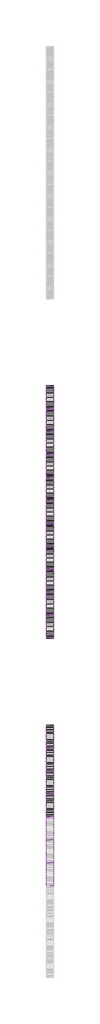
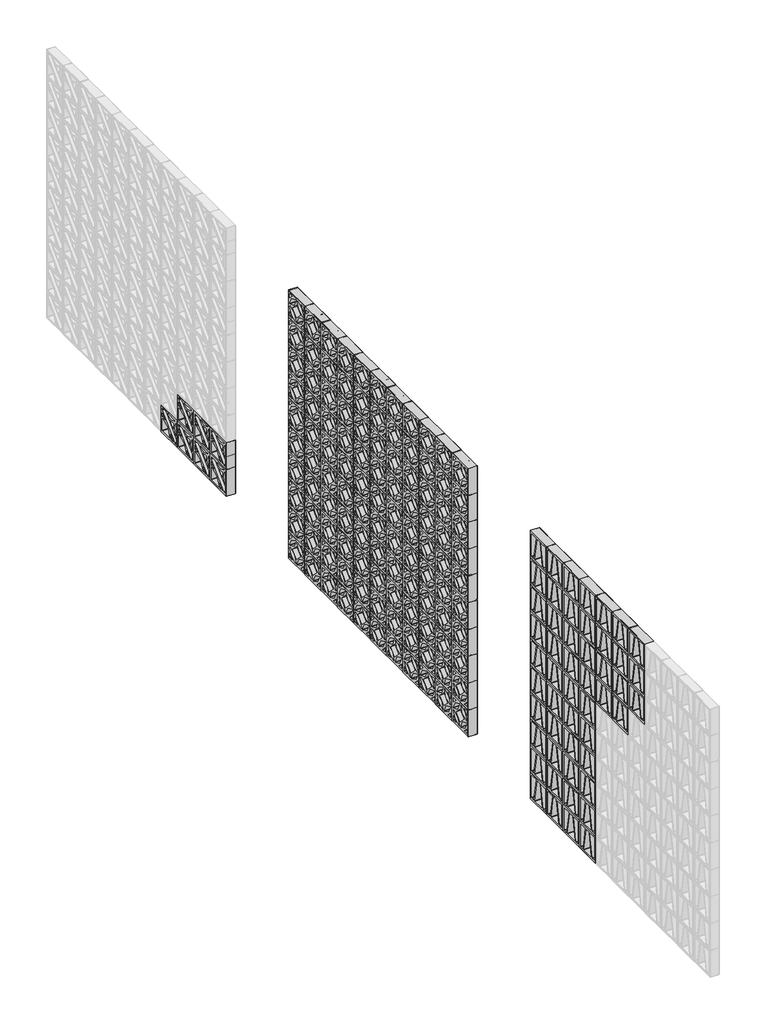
# One storey, part 2 of 8: 168 plates.
"""IFC4 building model written with IfcOpenShell, lengths in millimetres."""

from ifc_helpers import new_model, si_unit, origin, place, context, project, spatial, transform, mapped, element, save
from components import plate_dd80494e, plate_f0cbffd6, plate_92f93356

model = new_model("IFC4")

# Units and contexts
model_context = context("Model", 3, world=origin())
ifc_project = project(units=[si_unit("LENGTHUNIT", "METRE", prefix="MILLI")], contexts=[model_context])

# Site, building, storey
site = spatial("IfcSite", under=ifc_project)
building = spatial("IfcBuilding", under=site)
storey = spatial("IfcBuildingStorey", under=building, Name="PORTOBELLO - SHOWROOM", Elevation=0.0)

# Plates
placement = place(None, origin())
plate_shape = plate_dd80494e(model_context)
element("IfcPlate", 1, ObjectType="PORTOBELLO - STUDIO CRAFT 3 26X26 (PAINEL CORTINA) : STUDIO CRAFT 3", at=placement, inside=storey, context=model_context, shape_type="MappedRepresentation", body=[
    mapped(plate_shape, transform((227956.3824585, -3945.1299839, 0.0), x_axis=(0.0, 1.0, 0.0), y_axis=(-1.0, 0.0, 0.0), z_axis=(0.0, 0.0, 1.0))),
])
element("IfcPlate", 2, ObjectType="PORTOBELLO - STUDIO CRAFT 3 26X26 (PAINEL CORTINA) : STUDIO CRAFT 3", at=placement, inside=storey, context=model_context, shape_type="MappedRepresentation", body=[
    mapped(plate_shape, transform((227956.3824585, -3681.1299839, 0.0), x_axis=(0.0, 1.0, 0.0), y_axis=(-1.0, 0.0, 0.0), z_axis=(0.0, 0.0, 1.0))),
])
element("IfcPlate", 3, ObjectType="PORTOBELLO - STUDIO CRAFT 3 26X26 (PAINEL CORTINA) : STUDIO CRAFT 3", at=placement, inside=storey, context=model_context, shape_type="MappedRepresentation", body=[
    mapped(plate_shape, transform((227956.3824585, -3417.1299839, 0.0), x_axis=(0.0, 1.0, 0.0), y_axis=(-1.0, 0.0, 0.0), z_axis=(0.0, 0.0, 1.0))),
])
element("IfcPlate", 4, ObjectType="PORTOBELLO - STUDIO CRAFT 3 26X26 (PAINEL CORTINA) : STUDIO CRAFT 3", at=placement, inside=storey, context=model_context, shape_type="MappedRepresentation", body=[
    mapped(plate_shape, transform((227956.3824585, -3153.1299839, 0.0), x_axis=(0.0, 1.0, 0.0), y_axis=(-1.0, 0.0, 0.0), z_axis=(0.0, 0.0, 1.0))),
])
element("IfcPlate", 5, ObjectType="PORTOBELLO - STUDIO CRAFT 3 26X26 (PAINEL CORTINA) : STUDIO CRAFT 3", at=placement, inside=storey, context=model_context, shape_type="MappedRepresentation", body=[
    mapped(plate_shape, transform((227956.3824585, -3945.1299839, 264.0), x_axis=(0.0, 1.0, 0.0), y_axis=(-1.0, 0.0, 0.0), z_axis=(0.0, 0.0, 1.0))),
])
element("IfcPlate", 6, ObjectType="PORTOBELLO - STUDIO CRAFT 3 26X26 (PAINEL CORTINA) : STUDIO CRAFT 3", at=placement, inside=storey, context=model_context, shape_type="MappedRepresentation", body=[
    mapped(plate_shape, transform((227956.3824585, -3681.1299839, 264.0), x_axis=(0.0, 1.0, 0.0), y_axis=(-1.0, 0.0, 0.0), z_axis=(0.0, 0.0, 1.0))),
])
element("IfcPlate", 7, ObjectType="PORTOBELLO - STUDIO CRAFT 3 26X26 (PAINEL CORTINA) : STUDIO CRAFT 3", at=placement, inside=storey, context=model_context, shape_type="MappedRepresentation", body=[
    mapped(plate_shape, transform((227956.3824585, -3417.1299839, 264.0), x_axis=(0.0, 1.0, 0.0), y_axis=(-1.0, 0.0, 0.0), z_axis=(0.0, 0.0, 1.0))),
])
element("IfcPlate", 8, ObjectType="PORTOBELLO - STUDIO CRAFT 3 26X26 (PAINEL CORTINA) : STUDIO CRAFT 3", at=placement, inside=storey, context=model_context, shape_type="MappedRepresentation", body=[
    mapped(plate_shape, transform((227956.3824585, -3153.1299839, 264.0), x_axis=(0.0, 1.0, 0.0), y_axis=(-1.0, 0.0, 0.0), z_axis=(0.0, 0.0, 1.0))),
])
element("IfcPlate", 9, ObjectType="PORTOBELLO - STUDIO CRAFT 3 26X26 (PAINEL CORTINA) : STUDIO CRAFT 3", at=placement, inside=storey, context=model_context, shape_type="MappedRepresentation", body=[
    mapped(plate_shape, transform((227956.3824585, -3945.1299839, 528.0), x_axis=(0.0, 1.0, 0.0), y_axis=(-1.0, 0.0, 0.0), z_axis=(0.0, 0.0, 1.0))),
])
element("IfcPlate", 10, ObjectType="PORTOBELLO - STUDIO CRAFT 3 26X26 (PAINEL CORTINA) : STUDIO CRAFT 3", at=placement, inside=storey, context=model_context, shape_type="MappedRepresentation", body=[
    mapped(plate_shape, transform((227956.3824585, -3681.1299839, 528.0), x_axis=(0.0, 1.0, 0.0), y_axis=(-1.0, 0.0, 0.0), z_axis=(0.0, 0.0, 1.0))),
])
element("IfcPlate", 11, ObjectType="PORTOBELLO - STUDIO CRAFT 3 26X26 (PAINEL CORTINA) : STUDIO CRAFT 3", at=placement, inside=storey, context=model_context, shape_type="MappedRepresentation", body=[
    mapped(plate_shape, transform((227956.3824585, -3417.1299839, 528.0), x_axis=(0.0, 1.0, 0.0), y_axis=(-1.0, 0.0, 0.0), z_axis=(0.0, 0.0, 1.0))),
])
element("IfcPlate", 12, ObjectType="PORTOBELLO - STUDIO CRAFT 3 26X26 (PAINEL CORTINA) : STUDIO CRAFT 3", at=placement, inside=storey, context=model_context, shape_type="MappedRepresentation", body=[
    mapped(plate_shape, transform((227956.3824585, -3153.1299839, 528.0), x_axis=(0.0, 1.0, 0.0), y_axis=(-1.0, 0.0, 0.0), z_axis=(0.0, 0.0, 1.0))),
])
element("IfcPlate", 13, ObjectType="PORTOBELLO - STUDIO CRAFT 3 26X26 (PAINEL CORTINA) : STUDIO CRAFT 3", at=placement, inside=storey, context=model_context, shape_type="MappedRepresentation", body=[
    mapped(plate_shape, transform((227956.3824585, -3945.1299839, 792.0), x_axis=(0.0, 1.0, 0.0), y_axis=(-1.0, 0.0, 0.0), z_axis=(0.0, 0.0, 1.0))),
])
element("IfcPlate", 14, ObjectType="PORTOBELLO - STUDIO CRAFT 3 26X26 (PAINEL CORTINA) : STUDIO CRAFT 3", at=placement, inside=storey, context=model_context, shape_type="MappedRepresentation", body=[
    mapped(plate_shape, transform((227956.3824585, -3681.1299839, 792.0), x_axis=(0.0, 1.0, 0.0), y_axis=(-1.0, 0.0, 0.0), z_axis=(0.0, 0.0, 1.0))),
])
element("IfcPlate", 15, ObjectType="PORTOBELLO - STUDIO CRAFT 3 26X26 (PAINEL CORTINA) : STUDIO CRAFT 3", at=placement, inside=storey, context=model_context, shape_type="MappedRepresentation", body=[
    mapped(plate_shape, transform((227956.3824585, -3417.1299839, 792.0), x_axis=(0.0, 1.0, 0.0), y_axis=(-1.0, 0.0, 0.0), z_axis=(0.0, 0.0, 1.0))),
])
element("IfcPlate", 16, ObjectType="PORTOBELLO - STUDIO CRAFT 3 26X26 (PAINEL CORTINA) : STUDIO CRAFT 3", at=placement, inside=storey, context=model_context, shape_type="MappedRepresentation", body=[
    mapped(plate_shape, transform((227956.3824585, -3153.1299839, 792.0), x_axis=(0.0, 1.0, 0.0), y_axis=(-1.0, 0.0, 0.0), z_axis=(0.0, 0.0, 1.0))),
])
element("IfcPlate", 17, ObjectType="PORTOBELLO - STUDIO CRAFT 3 26X26 (PAINEL CORTINA) : STUDIO CRAFT 3", at=placement, inside=storey, context=model_context, shape_type="MappedRepresentation", body=[
    mapped(plate_shape, transform((227956.3824585, -3945.1299839, 1056.0), x_axis=(0.0, 1.0, 0.0), y_axis=(-1.0, 0.0, 0.0), z_axis=(0.0, 0.0, 1.0))),
])
element("IfcPlate", 18, ObjectType="PORTOBELLO - STUDIO CRAFT 3 26X26 (PAINEL CORTINA) : STUDIO CRAFT 3", at=placement, inside=storey, context=model_context, shape_type="MappedRepresentation", body=[
    mapped(plate_shape, transform((227956.3824585, -3681.1299839, 1056.0), x_axis=(0.0, 1.0, 0.0), y_axis=(-1.0, 0.0, 0.0), z_axis=(0.0, 0.0, 1.0))),
])
element("IfcPlate", 19, ObjectType="PORTOBELLO - STUDIO CRAFT 3 26X26 (PAINEL CORTINA) : STUDIO CRAFT 3", at=placement, inside=storey, context=model_context, shape_type="MappedRepresentation", body=[
    mapped(plate_shape, transform((227956.3824585, -3417.1299839, 1056.0), x_axis=(0.0, 1.0, 0.0), y_axis=(-1.0, 0.0, 0.0), z_axis=(0.0, 0.0, 1.0))),
])
element("IfcPlate", 20, ObjectType="PORTOBELLO - STUDIO CRAFT 3 26X26 (PAINEL CORTINA) : STUDIO CRAFT 3", at=placement, inside=storey, context=model_context, shape_type="MappedRepresentation", body=[
    mapped(plate_shape, transform((227956.3824585, -3153.1299839, 1056.0), x_axis=(0.0, 1.0, 0.0), y_axis=(-1.0, 0.0, 0.0), z_axis=(0.0, 0.0, 1.0))),
])
element("IfcPlate", 21, ObjectType="PORTOBELLO - STUDIO CRAFT 3 26X26 (PAINEL CORTINA) : STUDIO CRAFT 3", at=placement, inside=storey, context=model_context, shape_type="MappedRepresentation", body=[
    mapped(plate_shape, transform((227956.3824585, -3945.1299839, 1320.0), x_axis=(0.0, 1.0, 0.0), y_axis=(-1.0, 0.0, 0.0), z_axis=(0.0, 0.0, 1.0))),
])
element("IfcPlate", 22, ObjectType="PORTOBELLO - STUDIO CRAFT 3 26X26 (PAINEL CORTINA) : STUDIO CRAFT 3", at=placement, inside=storey, context=model_context, shape_type="MappedRepresentation", body=[
    mapped(plate_shape, transform((227956.3824585, -3681.1299839, 1320.0), x_axis=(0.0, 1.0, 0.0), y_axis=(-1.0, 0.0, 0.0), z_axis=(0.0, 0.0, 1.0))),
])
element("IfcPlate", 23, ObjectType="PORTOBELLO - STUDIO CRAFT 3 26X26 (PAINEL CORTINA) : STUDIO CRAFT 3", at=placement, inside=storey, context=model_context, shape_type="MappedRepresentation", body=[
    mapped(plate_shape, transform((227956.3824585, -3417.1299839, 1320.0), x_axis=(0.0, 1.0, 0.0), y_axis=(-1.0, 0.0, 0.0), z_axis=(0.0, 0.0, 1.0))),
])
element("IfcPlate", 24, ObjectType="PORTOBELLO - STUDIO CRAFT 3 26X26 (PAINEL CORTINA) : STUDIO CRAFT 3", at=placement, inside=storey, context=model_context, shape_type="MappedRepresentation", body=[
    mapped(plate_shape, transform((227956.3824585, -3153.1299839, 1320.0), x_axis=(0.0, 1.0, 0.0), y_axis=(-1.0, 0.0, 0.0), z_axis=(0.0, 0.0, 1.0))),
])
element("IfcPlate", 25, ObjectType="PORTOBELLO - STUDIO CRAFT 3 26X26 (PAINEL CORTINA) : STUDIO CRAFT 3", at=placement, inside=storey, context=model_context, shape_type="MappedRepresentation", body=[
    mapped(plate_shape, transform((227956.3824585, -4473.1299839, 1584.0), x_axis=(0.0, 1.0, 0.0), y_axis=(-1.0, 0.0, 0.0), z_axis=(0.0, 0.0, 1.0))),
])
element("IfcPlate", 26, ObjectType="PORTOBELLO - STUDIO CRAFT 3 26X26 (PAINEL CORTINA) : STUDIO CRAFT 3", at=placement, inside=storey, context=model_context, shape_type="MappedRepresentation", body=[
    mapped(plate_shape, transform((227956.3824585, -4209.1299839, 1584.0), x_axis=(0.0, 1.0, 0.0), y_axis=(-1.0, 0.0, 0.0), z_axis=(0.0, 0.0, 1.0))),
])
element("IfcPlate", 27, ObjectType="PORTOBELLO - STUDIO CRAFT 3 26X26 (PAINEL CORTINA) : STUDIO CRAFT 3", at=placement, inside=storey, context=model_context, shape_type="MappedRepresentation", body=[
    mapped(plate_shape, transform((227956.3824585, -3945.1299839, 1584.0), x_axis=(0.0, 1.0, 0.0), y_axis=(-1.0, 0.0, 0.0), z_axis=(0.0, 0.0, 1.0))),
])
element("IfcPlate", 28, ObjectType="PORTOBELLO - STUDIO CRAFT 3 26X26 (PAINEL CORTINA) : STUDIO CRAFT 3", at=placement, inside=storey, context=model_context, shape_type="MappedRepresentation", body=[
    mapped(plate_shape, transform((227956.3824585, -3681.1299839, 1584.0), x_axis=(0.0, 1.0, 0.0), y_axis=(-1.0, 0.0, 0.0), z_axis=(0.0, 0.0, 1.0))),
])
element("IfcPlate", 29, ObjectType="PORTOBELLO - STUDIO CRAFT 3 26X26 (PAINEL CORTINA) : STUDIO CRAFT 3", at=placement, inside=storey, context=model_context, shape_type="MappedRepresentation", body=[
    mapped(plate_shape, transform((227956.3824585, -3417.1299839, 1584.0), x_axis=(0.0, 1.0, 0.0), y_axis=(-1.0, 0.0, 0.0), z_axis=(0.0, 0.0, 1.0))),
])
element("IfcPlate", 30, ObjectType="PORTOBELLO - STUDIO CRAFT 3 26X26 (PAINEL CORTINA) : STUDIO CRAFT 3", at=placement, inside=storey, context=model_context, shape_type="MappedRepresentation", body=[
    mapped(plate_shape, transform((227956.3824585, -3153.1299839, 1584.0), x_axis=(0.0, 1.0, 0.0), y_axis=(-1.0, 0.0, 0.0), z_axis=(0.0, 0.0, 1.0))),
])
element("IfcPlate", 31, ObjectType="PORTOBELLO - STUDIO CRAFT 3 26X26 (PAINEL CORTINA) : STUDIO CRAFT 3", at=placement, inside=storey, context=model_context, shape_type="MappedRepresentation", body=[
    mapped(plate_shape, transform((227956.3824585, -4737.1299839, 1848.0), x_axis=(0.0, 1.0, 0.0), y_axis=(-1.0, 0.0, 0.0), z_axis=(0.0, 0.0, 1.0))),
])
element("IfcPlate", 32, ObjectType="PORTOBELLO - STUDIO CRAFT 3 26X26 (PAINEL CORTINA) : STUDIO CRAFT 3", at=placement, inside=storey, context=model_context, shape_type="MappedRepresentation", body=[
    mapped(plate_shape, transform((227956.3824585, -4473.1299839, 1848.0), x_axis=(0.0, 1.0, 0.0), y_axis=(-1.0, 0.0, 0.0), z_axis=(0.0, 0.0, 1.0))),
])
element("IfcPlate", 33, ObjectType="PORTOBELLO - STUDIO CRAFT 3 26X26 (PAINEL CORTINA) : STUDIO CRAFT 3", at=placement, inside=storey, context=model_context, shape_type="MappedRepresentation", body=[
    mapped(plate_shape, transform((227956.3824585, -4209.1299839, 1848.0), x_axis=(0.0, 1.0, 0.0), y_axis=(-1.0, 0.0, 0.0), z_axis=(0.0, 0.0, 1.0))),
])
element("IfcPlate", 34, ObjectType="PORTOBELLO - STUDIO CRAFT 3 26X26 (PAINEL CORTINA) : STUDIO CRAFT 3", at=placement, inside=storey, context=model_context, shape_type="MappedRepresentation", body=[
    mapped(plate_shape, transform((227956.3824585, -3945.1299839, 1848.0), x_axis=(0.0, 1.0, 0.0), y_axis=(-1.0, 0.0, 0.0), z_axis=(0.0, 0.0, 1.0))),
])
element("IfcPlate", 35, ObjectType="PORTOBELLO - STUDIO CRAFT 3 26X26 (PAINEL CORTINA) : STUDIO CRAFT 3", at=placement, inside=storey, context=model_context, shape_type="MappedRepresentation", body=[
    mapped(plate_shape, transform((227956.3824585, -3681.1299839, 1848.0), x_axis=(0.0, 1.0, 0.0), y_axis=(-1.0, 0.0, 0.0), z_axis=(0.0, 0.0, 1.0))),
])
element("IfcPlate", 36, ObjectType="PORTOBELLO - STUDIO CRAFT 3 26X26 (PAINEL CORTINA) : STUDIO CRAFT 3", at=placement, inside=storey, context=model_context, shape_type="MappedRepresentation", body=[
    mapped(plate_shape, transform((227956.3824585, -3417.1299839, 1848.0), x_axis=(0.0, 1.0, 0.0), y_axis=(-1.0, 0.0, 0.0), z_axis=(0.0, 0.0, 1.0))),
])
element("IfcPlate", 37, ObjectType="PORTOBELLO - STUDIO CRAFT 3 26X26 (PAINEL CORTINA) : STUDIO CRAFT 3", at=placement, inside=storey, context=model_context, shape_type="MappedRepresentation", body=[
    mapped(plate_shape, transform((227956.3824585, -3153.1299839, 1848.0), x_axis=(0.0, 1.0, 0.0), y_axis=(-1.0, 0.0, 0.0), z_axis=(0.0, 0.0, 1.0))),
])
element("IfcPlate", 38, ObjectType="PORTOBELLO - STUDIO CRAFT 3 26X26 (PAINEL CORTINA) : STUDIO CRAFT 3", at=placement, inside=storey, context=model_context, shape_type="MappedRepresentation", body=[
    mapped(plate_shape, transform((227956.3824585, -4737.1299839, 2112.0), x_axis=(0.0, 1.0, 0.0), y_axis=(-1.0, 0.0, 0.0), z_axis=(0.0, 0.0, 1.0))),
])
element("IfcPlate", 39, ObjectType="PORTOBELLO - STUDIO CRAFT 3 26X26 (PAINEL CORTINA) : STUDIO CRAFT 3", at=placement, inside=storey, context=model_context, shape_type="MappedRepresentation", body=[
    mapped(plate_shape, transform((227956.3824585, -4473.1299839, 2112.0), x_axis=(0.0, 1.0, 0.0), y_axis=(-1.0, 0.0, 0.0), z_axis=(0.0, 0.0, 1.0))),
])
element("IfcPlate", 40, ObjectType="PORTOBELLO - STUDIO CRAFT 3 26X26 (PAINEL CORTINA) : STUDIO CRAFT 3", at=placement, inside=storey, context=model_context, shape_type="MappedRepresentation", body=[
    mapped(plate_shape, transform((227956.3824585, -4209.1299839, 2112.0), x_axis=(0.0, 1.0, 0.0), y_axis=(-1.0, 0.0, 0.0), z_axis=(0.0, 0.0, 1.0))),
])
element("IfcPlate", 41, ObjectType="PORTOBELLO - STUDIO CRAFT 3 26X26 (PAINEL CORTINA) : STUDIO CRAFT 3", at=placement, inside=storey, context=model_context, shape_type="MappedRepresentation", body=[
    mapped(plate_shape, transform((227956.3824585, -3945.1299839, 2112.0), x_axis=(0.0, 1.0, 0.0), y_axis=(-1.0, 0.0, 0.0), z_axis=(0.0, 0.0, 1.0))),
])
element("IfcPlate", 42, ObjectType="PORTOBELLO - STUDIO CRAFT 3 26X26 (PAINEL CORTINA) : STUDIO CRAFT 3", at=placement, inside=storey, context=model_context, shape_type="MappedRepresentation", body=[
    mapped(plate_shape, transform((227956.3824585, -3681.1299839, 2112.0), x_axis=(0.0, 1.0, 0.0), y_axis=(-1.0, 0.0, 0.0), z_axis=(0.0, 0.0, 1.0))),
])
element("IfcPlate", 43, ObjectType="PORTOBELLO - STUDIO CRAFT 3 26X26 (PAINEL CORTINA) : STUDIO CRAFT 3", at=placement, inside=storey, context=model_context, shape_type="MappedRepresentation", body=[
    mapped(plate_shape, transform((227956.3824585, -3417.1299839, 2112.0), x_axis=(0.0, 1.0, 0.0), y_axis=(-1.0, 0.0, 0.0), z_axis=(0.0, 0.0, 1.0))),
])
element("IfcPlate", 44, ObjectType="PORTOBELLO - STUDIO CRAFT 3 26X26 (PAINEL CORTINA) : STUDIO CRAFT 3", at=placement, inside=storey, context=model_context, shape_type="MappedRepresentation", body=[
    mapped(plate_shape, transform((227956.3824585, -3153.1299839, 2112.0), x_axis=(0.0, 1.0, 0.0), y_axis=(-1.0, 0.0, 0.0), z_axis=(0.0, 0.0, 1.0))),
])
element("IfcPlate", 45, ObjectType="PORTOBELLO - STUDIO CRAFT 3 26X26 (PAINEL CORTINA) : STUDIO CRAFT 3", at=placement, inside=storey, context=model_context, shape_type="MappedRepresentation", body=[
    mapped(plate_shape, transform((227956.3824585, -4737.1299839, 2376.0), x_axis=(0.0, 1.0, 0.0), y_axis=(-1.0, 0.0, 0.0), z_axis=(0.0, 0.0, 1.0))),
])
element("IfcPlate", 46, ObjectType="PORTOBELLO - STUDIO CRAFT 3 26X26 (PAINEL CORTINA) : STUDIO CRAFT 3", at=placement, inside=storey, context=model_context, shape_type="MappedRepresentation", body=[
    mapped(plate_shape, transform((227956.3824585, -4473.1299839, 2376.0), x_axis=(0.0, 1.0, 0.0), y_axis=(-1.0, 0.0, 0.0), z_axis=(0.0, 0.0, 1.0))),
])
element("IfcPlate", 47, ObjectType="PORTOBELLO - STUDIO CRAFT 3 26X26 (PAINEL CORTINA) : STUDIO CRAFT 3", at=placement, inside=storey, context=model_context, shape_type="MappedRepresentation", body=[
    mapped(plate_shape, transform((227956.3824585, -4209.1299839, 2376.0), x_axis=(0.0, 1.0, 0.0), y_axis=(-1.0, 0.0, 0.0), z_axis=(0.0, 0.0, 1.0))),
])
element("IfcPlate", 48, ObjectType="PORTOBELLO - STUDIO CRAFT 3 26X26 (PAINEL CORTINA) : STUDIO CRAFT 3", at=placement, inside=storey, context=model_context, shape_type="MappedRepresentation", body=[
    mapped(plate_shape, transform((227956.3824585, -3945.1299839, 2376.0), x_axis=(0.0, 1.0, 0.0), y_axis=(-1.0, 0.0, 0.0), z_axis=(0.0, 0.0, 1.0))),
])
element("IfcPlate", 49, ObjectType="PORTOBELLO - STUDIO CRAFT 3 26X26 (PAINEL CORTINA) : STUDIO CRAFT 3", at=placement, inside=storey, context=model_context, shape_type="MappedRepresentation", body=[
    mapped(plate_shape, transform((227956.3824585, -3681.1299839, 2376.0), x_axis=(0.0, 1.0, 0.0), y_axis=(-1.0, 0.0, 0.0), z_axis=(0.0, 0.0, 1.0))),
])
element("IfcPlate", 50, ObjectType="PORTOBELLO - STUDIO CRAFT 3 26X26 (PAINEL CORTINA) : STUDIO CRAFT 3", at=placement, inside=storey, context=model_context, shape_type="MappedRepresentation", body=[
    mapped(plate_shape, transform((227956.3824585, -3417.1299839, 2376.0), x_axis=(0.0, 1.0, 0.0), y_axis=(-1.0, 0.0, 0.0), z_axis=(0.0, 0.0, 1.0))),
])
element("IfcPlate", 51, ObjectType="PORTOBELLO - STUDIO CRAFT 3 26X26 (PAINEL CORTINA) : STUDIO CRAFT 3", at=placement, inside=storey, context=model_context, shape_type="MappedRepresentation", body=[
    mapped(plate_shape, transform((227956.3824585, -3153.1299839, 2376.0), x_axis=(0.0, 1.0, 0.0), y_axis=(-1.0, 0.0, 0.0), z_axis=(0.0, 0.0, 1.0))),
])
plate_2_shape = plate_f0cbffd6(model_context)
element("IfcPlate", 52, ObjectType="PORTOBELLO - STUDIO CRAFT 4 26X26 (PAINEL CORTINA) : STUDIO CRAFT 4", at=placement, inside=storey, context=model_context, shape_type="MappedRepresentation", body=[
    mapped(plate_2_shape, transform((227956.3824585, -1889.1299839, 0.0), x_axis=(0.0, 1.0, 0.0), y_axis=(-1.0, 0.0, 0.0), z_axis=(0.0, 0.0, 1.0))),
])
element("IfcPlate", 53, ObjectType="PORTOBELLO - STUDIO CRAFT 4 26X26 (PAINEL CORTINA) : STUDIO CRAFT 4", at=placement, inside=storey, context=model_context, shape_type="MappedRepresentation", body=[
    mapped(plate_2_shape, transform((227956.3824585, -1625.1299837, 0.0), x_axis=(0.0, 1.0, 0.0), y_axis=(-1.0, 0.0, 0.0), z_axis=(0.0, 0.0, 1.0))),
])
element("IfcPlate", 54, ObjectType="PORTOBELLO - STUDIO CRAFT 4 26X26 (PAINEL CORTINA) : STUDIO CRAFT 4", at=placement, inside=storey, context=model_context, shape_type="MappedRepresentation", body=[
    mapped(plate_2_shape, transform((227956.3824585, -1361.1299837, 0.0), x_axis=(0.0, 1.0, 0.0), y_axis=(-1.0, 0.0, 0.0), z_axis=(0.0, 0.0, 1.0))),
])
element("IfcPlate", 55, ObjectType="PORTOBELLO - STUDIO CRAFT 4 26X26 (PAINEL CORTINA) : STUDIO CRAFT 4", at=placement, inside=storey, context=model_context, shape_type="MappedRepresentation", body=[
    mapped(plate_2_shape, transform((227956.3824585, -1097.1299837, 0.0), x_axis=(0.0, 1.0, 0.0), y_axis=(-1.0, 0.0, 0.0), z_axis=(0.0, 0.0, 1.0))),
])
element("IfcPlate", 56, ObjectType="PORTOBELLO - STUDIO CRAFT 4 26X26 (PAINEL CORTINA) : STUDIO CRAFT 4", at=placement, inside=storey, context=model_context, shape_type="MappedRepresentation", body=[
    mapped(plate_2_shape, transform((227956.3824585, -833.1299837, 0.0), x_axis=(0.0, 1.0, 0.0), y_axis=(-1.0, 0.0, 0.0), z_axis=(0.0, 0.0, 1.0))),
])
element("IfcPlate", 57, ObjectType="PORTOBELLO - STUDIO CRAFT 4 26X26 (PAINEL CORTINA) : STUDIO CRAFT 4", at=placement, inside=storey, context=model_context, shape_type="MappedRepresentation", body=[
    mapped(plate_2_shape, transform((227956.3824585, -569.1299837, 0.0), x_axis=(0.0, 1.0, 0.0), y_axis=(-1.0, 0.0, 0.0), z_axis=(0.0, 0.0, 1.0))),
])
element("IfcPlate", 58, ObjectType="PORTOBELLO - STUDIO CRAFT 4 26X26 (PAINEL CORTINA) : STUDIO CRAFT 4", at=placement, inside=storey, context=model_context, shape_type="MappedRepresentation", body=[
    mapped(plate_2_shape, transform((227956.3824585, -305.1299837, 0.0), x_axis=(0.0, 1.0, 0.0), y_axis=(-1.0, 0.0, 0.0), z_axis=(0.0, 0.0, 1.0))),
])
element("IfcPlate", 59, ObjectType="PORTOBELLO - STUDIO CRAFT 4 26X26 (PAINEL CORTINA) : STUDIO CRAFT 4", at=placement, inside=storey, context=model_context, shape_type="MappedRepresentation", body=[
    mapped(plate_2_shape, transform((227956.3824585, -41.1299837, 0.0), x_axis=(0.0, 1.0, 0.0), y_axis=(-1.0, 0.0, 0.0), z_axis=(0.0, 0.0, 1.0))),
])
element("IfcPlate", 60, ObjectType="PORTOBELLO - STUDIO CRAFT 4 26X26 (PAINEL CORTINA) : STUDIO CRAFT 4", at=placement, inside=storey, context=model_context, shape_type="MappedRepresentation", body=[
    mapped(plate_2_shape, transform((227956.3824585, 222.8700163, 0.0), x_axis=(0.0, 1.0, 0.0), y_axis=(-1.0, 0.0, 0.0), z_axis=(0.0, 0.0, 1.0))),
])
element("IfcPlate", 61, ObjectType="PORTOBELLO - STUDIO CRAFT 4 26X26 (PAINEL CORTINA) : STUDIO CRAFT 4", at=placement, inside=storey, context=model_context, shape_type="MappedRepresentation", body=[
    mapped(plate_2_shape, transform((227956.3824585, 486.8700163, 0.0), x_axis=(0.0, 1.0, 0.0), y_axis=(-1.0, 0.0, 0.0), z_axis=(0.0, 0.0, 1.0))),
])
element("IfcPlate", 62, ObjectType="PORTOBELLO - STUDIO CRAFT 4 26X26 (PAINEL CORTINA) : STUDIO CRAFT 4", at=placement, inside=storey, context=model_context, shape_type="MappedRepresentation", body=[
    mapped(plate_2_shape, transform((227956.3824585, 750.8700162, 0.0), x_axis=(0.0, 1.0, 0.0), y_axis=(-1.0, 0.0, 0.0), z_axis=(0.0, 0.0, 1.0))),
])
element("IfcPlate", 63, ObjectType="PORTOBELLO - STUDIO CRAFT 4 26X26 (PAINEL CORTINA) : STUDIO CRAFT 4", at=placement, inside=storey, context=model_context, shape_type="MappedRepresentation", body=[
    mapped(plate_2_shape, transform((227956.3824585, -1889.1299839, 264.0), x_axis=(0.0, 1.0, 0.0), y_axis=(-1.0, 0.0, 0.0), z_axis=(0.0, 0.0, 1.0))),
])
element("IfcPlate", 64, ObjectType="PORTOBELLO - STUDIO CRAFT 4 26X26 (PAINEL CORTINA) : STUDIO CRAFT 4", at=placement, inside=storey, context=model_context, shape_type="MappedRepresentation", body=[
    mapped(plate_2_shape, transform((227956.3824585, -1625.1299837, 264.0), x_axis=(0.0, 1.0, 0.0), y_axis=(-1.0, 0.0, 0.0), z_axis=(0.0, 0.0, 1.0))),
])
element("IfcPlate", 65, ObjectType="PORTOBELLO - STUDIO CRAFT 4 26X26 (PAINEL CORTINA) : STUDIO CRAFT 4", at=placement, inside=storey, context=model_context, shape_type="MappedRepresentation", body=[
    mapped(plate_2_shape, transform((227956.3824585, -1361.1299837, 264.0), x_axis=(0.0, 1.0, 0.0), y_axis=(-1.0, 0.0, 0.0), z_axis=(0.0, 0.0, 1.0))),
])
element("IfcPlate", 66, ObjectType="PORTOBELLO - STUDIO CRAFT 4 26X26 (PAINEL CORTINA) : STUDIO CRAFT 4", at=placement, inside=storey, context=model_context, shape_type="MappedRepresentation", body=[
    mapped(plate_2_shape, transform((227956.3824585, -1097.1299837, 264.0), x_axis=(0.0, 1.0, 0.0), y_axis=(-1.0, 0.0, 0.0), z_axis=(0.0, 0.0, 1.0))),
])
element("IfcPlate", 67, ObjectType="PORTOBELLO - STUDIO CRAFT 4 26X26 (PAINEL CORTINA) : STUDIO CRAFT 4", at=placement, inside=storey, context=model_context, shape_type="MappedRepresentation", body=[
    mapped(plate_2_shape, transform((227956.3824585, -833.1299837, 264.0), x_axis=(0.0, 1.0, 0.0), y_axis=(-1.0, 0.0, 0.0), z_axis=(0.0, 0.0, 1.0))),
])
element("IfcPlate", 68, ObjectType="PORTOBELLO - STUDIO CRAFT 4 26X26 (PAINEL CORTINA) : STUDIO CRAFT 4", at=placement, inside=storey, context=model_context, shape_type="MappedRepresentation", body=[
    mapped(plate_2_shape, transform((227956.3824585, -569.1299837, 264.0), x_axis=(0.0, 1.0, 0.0), y_axis=(-1.0, 0.0, 0.0), z_axis=(0.0, 0.0, 1.0))),
])
element("IfcPlate", 69, ObjectType="PORTOBELLO - STUDIO CRAFT 4 26X26 (PAINEL CORTINA) : STUDIO CRAFT 4", at=placement, inside=storey, context=model_context, shape_type="MappedRepresentation", body=[
    mapped(plate_2_shape, transform((227956.3824585, -305.1299837, 264.0), x_axis=(0.0, 1.0, 0.0), y_axis=(-1.0, 0.0, 0.0), z_axis=(0.0, 0.0, 1.0))),
])
element("IfcPlate", 70, ObjectType="PORTOBELLO - STUDIO CRAFT 4 26X26 (PAINEL CORTINA) : STUDIO CRAFT 4", at=placement, inside=storey, context=model_context, shape_type="MappedRepresentation", body=[
    mapped(plate_2_shape, transform((227956.3824585, -41.1299837, 264.0), x_axis=(0.0, 1.0, 0.0), y_axis=(-1.0, 0.0, 0.0), z_axis=(0.0, 0.0, 1.0))),
])
element("IfcPlate", 71, ObjectType="PORTOBELLO - STUDIO CRAFT 4 26X26 (PAINEL CORTINA) : STUDIO CRAFT 4", at=placement, inside=storey, context=model_context, shape_type="MappedRepresentation", body=[
    mapped(plate_2_shape, transform((227956.3824585, 222.8700163, 264.0), x_axis=(0.0, 1.0, 0.0), y_axis=(-1.0, 0.0, 0.0), z_axis=(0.0, 0.0, 1.0))),
])
element("IfcPlate", 72, ObjectType="PORTOBELLO - STUDIO CRAFT 4 26X26 (PAINEL CORTINA) : STUDIO CRAFT 4", at=placement, inside=storey, context=model_context, shape_type="MappedRepresentation", body=[
    mapped(plate_2_shape, transform((227956.3824585, 486.8700163, 264.0), x_axis=(0.0, 1.0, 0.0), y_axis=(-1.0, 0.0, 0.0), z_axis=(0.0, 0.0, 1.0))),
])
element("IfcPlate", 73, ObjectType="PORTOBELLO - STUDIO CRAFT 4 26X26 (PAINEL CORTINA) : STUDIO CRAFT 4", at=placement, inside=storey, context=model_context, shape_type="MappedRepresentation", body=[
    mapped(plate_2_shape, transform((227956.3824585, 750.8700162, 264.0), x_axis=(0.0, 1.0, 0.0), y_axis=(-1.0, 0.0, 0.0), z_axis=(0.0, 0.0, 1.0))),
])
element("IfcPlate", 74, ObjectType="PORTOBELLO - STUDIO CRAFT 4 26X26 (PAINEL CORTINA) : STUDIO CRAFT 4", at=placement, inside=storey, context=model_context, shape_type="MappedRepresentation", body=[
    mapped(plate_2_shape, transform((227956.3824585, -1889.1299839, 528.0), x_axis=(0.0, 1.0, 0.0), y_axis=(-1.0, 0.0, 0.0), z_axis=(0.0, 0.0, 1.0))),
])
element("IfcPlate", 75, ObjectType="PORTOBELLO - STUDIO CRAFT 4 26X26 (PAINEL CORTINA) : STUDIO CRAFT 4", at=placement, inside=storey, context=model_context, shape_type="MappedRepresentation", body=[
    mapped(plate_2_shape, transform((227956.3824585, -1625.1299837, 528.0), x_axis=(0.0, 1.0, 0.0), y_axis=(-1.0, 0.0, 0.0), z_axis=(0.0, 0.0, 1.0))),
])
element("IfcPlate", 76, ObjectType="PORTOBELLO - STUDIO CRAFT 4 26X26 (PAINEL CORTINA) : STUDIO CRAFT 4", at=placement, inside=storey, context=model_context, shape_type="MappedRepresentation", body=[
    mapped(plate_2_shape, transform((227956.3824585, -1361.1299837, 528.0), x_axis=(0.0, 1.0, 0.0), y_axis=(-1.0, 0.0, 0.0), z_axis=(0.0, 0.0, 1.0))),
])
element("IfcPlate", 77, ObjectType="PORTOBELLO - STUDIO CRAFT 4 26X26 (PAINEL CORTINA) : STUDIO CRAFT 4", at=placement, inside=storey, context=model_context, shape_type="MappedRepresentation", body=[
    mapped(plate_2_shape, transform((227956.3824585, -1097.1299837, 528.0), x_axis=(0.0, 1.0, 0.0), y_axis=(-1.0, 0.0, 0.0), z_axis=(0.0, 0.0, 1.0))),
])
element("IfcPlate", 78, ObjectType="PORTOBELLO - STUDIO CRAFT 4 26X26 (PAINEL CORTINA) : STUDIO CRAFT 4", at=placement, inside=storey, context=model_context, shape_type="MappedRepresentation", body=[
    mapped(plate_2_shape, transform((227956.3824585, -833.1299837, 528.0), x_axis=(0.0, 1.0, 0.0), y_axis=(-1.0, 0.0, 0.0), z_axis=(0.0, 0.0, 1.0))),
])
element("IfcPlate", 79, ObjectType="PORTOBELLO - STUDIO CRAFT 4 26X26 (PAINEL CORTINA) : STUDIO CRAFT 4", at=placement, inside=storey, context=model_context, shape_type="MappedRepresentation", body=[
    mapped(plate_2_shape, transform((227956.3824585, -569.1299837, 528.0), x_axis=(0.0, 1.0, 0.0), y_axis=(-1.0, 0.0, 0.0), z_axis=(0.0, 0.0, 1.0))),
])
element("IfcPlate", 80, ObjectType="PORTOBELLO - STUDIO CRAFT 4 26X26 (PAINEL CORTINA) : STUDIO CRAFT 4", at=placement, inside=storey, context=model_context, shape_type="MappedRepresentation", body=[
    mapped(plate_2_shape, transform((227956.3824585, -305.1299837, 528.0), x_axis=(0.0, 1.0, 0.0), y_axis=(-1.0, 0.0, 0.0), z_axis=(0.0, 0.0, 1.0))),
])
element("IfcPlate", 81, ObjectType="PORTOBELLO - STUDIO CRAFT 4 26X26 (PAINEL CORTINA) : STUDIO CRAFT 4", at=placement, inside=storey, context=model_context, shape_type="MappedRepresentation", body=[
    mapped(plate_2_shape, transform((227956.3824585, -41.1299837, 528.0), x_axis=(0.0, 1.0, 0.0), y_axis=(-1.0, 0.0, 0.0), z_axis=(0.0, 0.0, 1.0))),
])
element("IfcPlate", 82, ObjectType="PORTOBELLO - STUDIO CRAFT 4 26X26 (PAINEL CORTINA) : STUDIO CRAFT 4", at=placement, inside=storey, context=model_context, shape_type="MappedRepresentation", body=[
    mapped(plate_2_shape, transform((227956.3824585, 222.8700163, 528.0), x_axis=(0.0, 1.0, 0.0), y_axis=(-1.0, 0.0, 0.0), z_axis=(0.0, 0.0, 1.0))),
])
element("IfcPlate", 83, ObjectType="PORTOBELLO - STUDIO CRAFT 4 26X26 (PAINEL CORTINA) : STUDIO CRAFT 4", at=placement, inside=storey, context=model_context, shape_type="MappedRepresentation", body=[
    mapped(plate_2_shape, transform((227956.3824585, 486.8700163, 528.0), x_axis=(0.0, 1.0, 0.0), y_axis=(-1.0, 0.0, 0.0), z_axis=(0.0, 0.0, 1.0))),
])
element("IfcPlate", 84, ObjectType="PORTOBELLO - STUDIO CRAFT 4 26X26 (PAINEL CORTINA) : STUDIO CRAFT 4", at=placement, inside=storey, context=model_context, shape_type="MappedRepresentation", body=[
    mapped(plate_2_shape, transform((227956.3824585, 750.8700162, 528.0), x_axis=(0.0, 1.0, 0.0), y_axis=(-1.0, 0.0, 0.0), z_axis=(0.0, 0.0, 1.0))),
])
element("IfcPlate", 85, ObjectType="PORTOBELLO - STUDIO CRAFT 4 26X26 (PAINEL CORTINA) : STUDIO CRAFT 4", at=placement, inside=storey, context=model_context, shape_type="MappedRepresentation", body=[
    mapped(plate_2_shape, transform((227956.3824585, -1889.1299839, 792.0), x_axis=(0.0, 1.0, 0.0), y_axis=(-1.0, 0.0, 0.0), z_axis=(0.0, 0.0, 1.0))),
])
element("IfcPlate", 86, ObjectType="PORTOBELLO - STUDIO CRAFT 4 26X26 (PAINEL CORTINA) : STUDIO CRAFT 4", at=placement, inside=storey, context=model_context, shape_type="MappedRepresentation", body=[
    mapped(plate_2_shape, transform((227956.3824585, -1625.1299837, 792.0), x_axis=(0.0, 1.0, 0.0), y_axis=(-1.0, 0.0, 0.0), z_axis=(0.0, 0.0, 1.0))),
])
element("IfcPlate", 87, ObjectType="PORTOBELLO - STUDIO CRAFT 4 26X26 (PAINEL CORTINA) : STUDIO CRAFT 4", at=placement, inside=storey, context=model_context, shape_type="MappedRepresentation", body=[
    mapped(plate_2_shape, transform((227956.3824585, -1361.1299837, 792.0), x_axis=(0.0, 1.0, 0.0), y_axis=(-1.0, 0.0, 0.0), z_axis=(0.0, 0.0, 1.0))),
])
element("IfcPlate", 88, ObjectType="PORTOBELLO - STUDIO CRAFT 4 26X26 (PAINEL CORTINA) : STUDIO CRAFT 4", at=placement, inside=storey, context=model_context, shape_type="MappedRepresentation", body=[
    mapped(plate_2_shape, transform((227956.3824585, -1097.1299837, 792.0), x_axis=(0.0, 1.0, 0.0), y_axis=(-1.0, 0.0, 0.0), z_axis=(0.0, 0.0, 1.0))),
])
element("IfcPlate", 89, ObjectType="PORTOBELLO - STUDIO CRAFT 4 26X26 (PAINEL CORTINA) : STUDIO CRAFT 4", at=placement, inside=storey, context=model_context, shape_type="MappedRepresentation", body=[
    mapped(plate_2_shape, transform((227956.3824585, -833.1299837, 792.0), x_axis=(0.0, 1.0, 0.0), y_axis=(-1.0, 0.0, 0.0), z_axis=(0.0, 0.0, 1.0))),
])
element("IfcPlate", 90, ObjectType="PORTOBELLO - STUDIO CRAFT 4 26X26 (PAINEL CORTINA) : STUDIO CRAFT 4", at=placement, inside=storey, context=model_context, shape_type="MappedRepresentation", body=[
    mapped(plate_2_shape, transform((227956.3824585, -569.1299837, 792.0), x_axis=(0.0, 1.0, 0.0), y_axis=(-1.0, 0.0, 0.0), z_axis=(0.0, 0.0, 1.0))),
])
element("IfcPlate", 91, ObjectType="PORTOBELLO - STUDIO CRAFT 4 26X26 (PAINEL CORTINA) : STUDIO CRAFT 4", at=placement, inside=storey, context=model_context, shape_type="MappedRepresentation", body=[
    mapped(plate_2_shape, transform((227956.3824585, -305.1299837, 792.0), x_axis=(0.0, 1.0, 0.0), y_axis=(-1.0, 0.0, 0.0), z_axis=(0.0, 0.0, 1.0))),
])
element("IfcPlate", 92, ObjectType="PORTOBELLO - STUDIO CRAFT 4 26X26 (PAINEL CORTINA) : STUDIO CRAFT 4", at=placement, inside=storey, context=model_context, shape_type="MappedRepresentation", body=[
    mapped(plate_2_shape, transform((227956.3824585, -41.1299837, 792.0), x_axis=(0.0, 1.0, 0.0), y_axis=(-1.0, 0.0, 0.0), z_axis=(0.0, 0.0, 1.0))),
])
element("IfcPlate", 93, ObjectType="PORTOBELLO - STUDIO CRAFT 4 26X26 (PAINEL CORTINA) : STUDIO CRAFT 4", at=placement, inside=storey, context=model_context, shape_type="MappedRepresentation", body=[
    mapped(plate_2_shape, transform((227956.3824585, 222.8700163, 792.0), x_axis=(0.0, 1.0, 0.0), y_axis=(-1.0, 0.0, 0.0), z_axis=(0.0, 0.0, 1.0))),
])
element("IfcPlate", 94, ObjectType="PORTOBELLO - STUDIO CRAFT 4 26X26 (PAINEL CORTINA) : STUDIO CRAFT 4", at=placement, inside=storey, context=model_context, shape_type="MappedRepresentation", body=[
    mapped(plate_2_shape, transform((227956.3824585, 486.8700163, 792.0), x_axis=(0.0, 1.0, 0.0), y_axis=(-1.0, 0.0, 0.0), z_axis=(0.0, 0.0, 1.0))),
])
element("IfcPlate", 95, ObjectType="PORTOBELLO - STUDIO CRAFT 4 26X26 (PAINEL CORTINA) : STUDIO CRAFT 4", at=placement, inside=storey, context=model_context, shape_type="MappedRepresentation", body=[
    mapped(plate_2_shape, transform((227956.3824585, 750.8700162, 792.0), x_axis=(0.0, 1.0, 0.0), y_axis=(-1.0, 0.0, 0.0), z_axis=(0.0, 0.0, 1.0))),
])
element("IfcPlate", 96, ObjectType="PORTOBELLO - STUDIO CRAFT 4 26X26 (PAINEL CORTINA) : STUDIO CRAFT 4", at=placement, inside=storey, context=model_context, shape_type="MappedRepresentation", body=[
    mapped(plate_2_shape, transform((227956.3824585, -1889.1299839, 1056.0), x_axis=(0.0, 1.0, 0.0), y_axis=(-1.0, 0.0, 0.0), z_axis=(0.0, 0.0, 1.0))),
])
element("IfcPlate", 97, ObjectType="PORTOBELLO - STUDIO CRAFT 4 26X26 (PAINEL CORTINA) : STUDIO CRAFT 4", at=placement, inside=storey, context=model_context, shape_type="MappedRepresentation", body=[
    mapped(plate_2_shape, transform((227956.3824585, -1625.1299837, 1056.0), x_axis=(0.0, 1.0, 0.0), y_axis=(-1.0, 0.0, 0.0), z_axis=(0.0, 0.0, 1.0))),
])
element("IfcPlate", 98, ObjectType="PORTOBELLO - STUDIO CRAFT 4 26X26 (PAINEL CORTINA) : STUDIO CRAFT 4", at=placement, inside=storey, context=model_context, shape_type="MappedRepresentation", body=[
    mapped(plate_2_shape, transform((227956.3824585, -1361.1299837, 1056.0), x_axis=(0.0, 1.0, 0.0), y_axis=(-1.0, 0.0, 0.0), z_axis=(0.0, 0.0, 1.0))),
])
element("IfcPlate", 99, ObjectType="PORTOBELLO - STUDIO CRAFT 4 26X26 (PAINEL CORTINA) : STUDIO CRAFT 4", at=placement, inside=storey, context=model_context, shape_type="MappedRepresentation", body=[
    mapped(plate_2_shape, transform((227956.3824585, -1097.1299837, 1056.0), x_axis=(0.0, 1.0, 0.0), y_axis=(-1.0, 0.0, 0.0), z_axis=(0.0, 0.0, 1.0))),
])
element("IfcPlate", 100, ObjectType="PORTOBELLO - STUDIO CRAFT 4 26X26 (PAINEL CORTINA) : STUDIO CRAFT 4", at=placement, inside=storey, context=model_context, shape_type="MappedRepresentation", body=[
    mapped(plate_2_shape, transform((227956.3824585, -833.1299837, 1056.0), x_axis=(0.0, 1.0, 0.0), y_axis=(-1.0, 0.0, 0.0), z_axis=(0.0, 0.0, 1.0))),
])
element("IfcPlate", 101, ObjectType="PORTOBELLO - STUDIO CRAFT 4 26X26 (PAINEL CORTINA) : STUDIO CRAFT 4", at=placement, inside=storey, context=model_context, shape_type="MappedRepresentation", body=[
    mapped(plate_2_shape, transform((227956.3824585, -569.1299837, 1056.0), x_axis=(0.0, 1.0, 0.0), y_axis=(-1.0, 0.0, 0.0), z_axis=(0.0, 0.0, 1.0))),
])
element("IfcPlate", 102, ObjectType="PORTOBELLO - STUDIO CRAFT 4 26X26 (PAINEL CORTINA) : STUDIO CRAFT 4", at=placement, inside=storey, context=model_context, shape_type="MappedRepresentation", body=[
    mapped(plate_2_shape, transform((227956.3824585, -305.1299837, 1056.0), x_axis=(0.0, 1.0, 0.0), y_axis=(-1.0, 0.0, 0.0), z_axis=(0.0, 0.0, 1.0))),
])
element("IfcPlate", 103, ObjectType="PORTOBELLO - STUDIO CRAFT 4 26X26 (PAINEL CORTINA) : STUDIO CRAFT 4", at=placement, inside=storey, context=model_context, shape_type="MappedRepresentation", body=[
    mapped(plate_2_shape, transform((227956.3824585, -41.1299837, 1056.0), x_axis=(0.0, 1.0, 0.0), y_axis=(-1.0, 0.0, 0.0), z_axis=(0.0, 0.0, 1.0))),
])
element("IfcPlate", 104, ObjectType="PORTOBELLO - STUDIO CRAFT 4 26X26 (PAINEL CORTINA) : STUDIO CRAFT 4", at=placement, inside=storey, context=model_context, shape_type="MappedRepresentation", body=[
    mapped(plate_2_shape, transform((227956.3824585, 222.8700163, 1056.0), x_axis=(0.0, 1.0, 0.0), y_axis=(-1.0, 0.0, 0.0), z_axis=(0.0, 0.0, 1.0))),
])
element("IfcPlate", 105, ObjectType="PORTOBELLO - STUDIO CRAFT 4 26X26 (PAINEL CORTINA) : STUDIO CRAFT 4", at=placement, inside=storey, context=model_context, shape_type="MappedRepresentation", body=[
    mapped(plate_2_shape, transform((227956.3824585, 486.8700163, 1056.0), x_axis=(0.0, 1.0, 0.0), y_axis=(-1.0, 0.0, 0.0), z_axis=(0.0, 0.0, 1.0))),
])
element("IfcPlate", 106, ObjectType="PORTOBELLO - STUDIO CRAFT 4 26X26 (PAINEL CORTINA) : STUDIO CRAFT 4", at=placement, inside=storey, context=model_context, shape_type="MappedRepresentation", body=[
    mapped(plate_2_shape, transform((227956.3824585, 750.8700162, 1056.0), x_axis=(0.0, 1.0, 0.0), y_axis=(-1.0, 0.0, 0.0), z_axis=(0.0, 0.0, 1.0))),
])
element("IfcPlate", 107, ObjectType="PORTOBELLO - STUDIO CRAFT 4 26X26 (PAINEL CORTINA) : STUDIO CRAFT 4", at=placement, inside=storey, context=model_context, shape_type="MappedRepresentation", body=[
    mapped(plate_2_shape, transform((227956.3824585, -1889.1299839, 1320.0), x_axis=(0.0, 1.0, 0.0), y_axis=(-1.0, 0.0, 0.0), z_axis=(0.0, 0.0, 1.0))),
])
element("IfcPlate", 108, ObjectType="PORTOBELLO - STUDIO CRAFT 4 26X26 (PAINEL CORTINA) : STUDIO CRAFT 4", at=placement, inside=storey, context=model_context, shape_type="MappedRepresentation", body=[
    mapped(plate_2_shape, transform((227956.3824585, -1625.1299837, 1320.0), x_axis=(0.0, 1.0, 0.0), y_axis=(-1.0, 0.0, 0.0), z_axis=(0.0, 0.0, 1.0))),
])
element("IfcPlate", 109, ObjectType="PORTOBELLO - STUDIO CRAFT 4 26X26 (PAINEL CORTINA) : STUDIO CRAFT 4", at=placement, inside=storey, context=model_context, shape_type="MappedRepresentation", body=[
    mapped(plate_2_shape, transform((227956.3824585, -1361.1299837, 1320.0), x_axis=(0.0, 1.0, 0.0), y_axis=(-1.0, 0.0, 0.0), z_axis=(0.0, 0.0, 1.0))),
])
element("IfcPlate", 110, ObjectType="PORTOBELLO - STUDIO CRAFT 4 26X26 (PAINEL CORTINA) : STUDIO CRAFT 4", at=placement, inside=storey, context=model_context, shape_type="MappedRepresentation", body=[
    mapped(plate_2_shape, transform((227956.3824585, -1097.1299837, 1320.0), x_axis=(0.0, 1.0, 0.0), y_axis=(-1.0, 0.0, 0.0), z_axis=(0.0, 0.0, 1.0))),
])
element("IfcPlate", 111, ObjectType="PORTOBELLO - STUDIO CRAFT 4 26X26 (PAINEL CORTINA) : STUDIO CRAFT 4", at=placement, inside=storey, context=model_context, shape_type="MappedRepresentation", body=[
    mapped(plate_2_shape, transform((227956.3824585, -833.1299837, 1320.0), x_axis=(0.0, 1.0, 0.0), y_axis=(-1.0, 0.0, 0.0), z_axis=(0.0, 0.0, 1.0))),
])
element("IfcPlate", 112, ObjectType="PORTOBELLO - STUDIO CRAFT 4 26X26 (PAINEL CORTINA) : STUDIO CRAFT 4", at=placement, inside=storey, context=model_context, shape_type="MappedRepresentation", body=[
    mapped(plate_2_shape, transform((227956.3824585, -569.1299837, 1320.0), x_axis=(0.0, 1.0, 0.0), y_axis=(-1.0, 0.0, 0.0), z_axis=(0.0, 0.0, 1.0))),
])
element("IfcPlate", 113, ObjectType="PORTOBELLO - STUDIO CRAFT 4 26X26 (PAINEL CORTINA) : STUDIO CRAFT 4", at=placement, inside=storey, context=model_context, shape_type="MappedRepresentation", body=[
    mapped(plate_2_shape, transform((227956.3824585, -305.1299837, 1320.0), x_axis=(0.0, 1.0, 0.0), y_axis=(-1.0, 0.0, 0.0), z_axis=(0.0, 0.0, 1.0))),
])
element("IfcPlate", 114, ObjectType="PORTOBELLO - STUDIO CRAFT 4 26X26 (PAINEL CORTINA) : STUDIO CRAFT 4", at=placement, inside=storey, context=model_context, shape_type="MappedRepresentation", body=[
    mapped(plate_2_shape, transform((227956.3824585, -41.1299837, 1320.0), x_axis=(0.0, 1.0, 0.0), y_axis=(-1.0, 0.0, 0.0), z_axis=(0.0, 0.0, 1.0))),
])
element("IfcPlate", 115, ObjectType="PORTOBELLO - STUDIO CRAFT 4 26X26 (PAINEL CORTINA) : STUDIO CRAFT 4", at=placement, inside=storey, context=model_context, shape_type="MappedRepresentation", body=[
    mapped(plate_2_shape, transform((227956.3824585, 222.8700163, 1320.0), x_axis=(0.0, 1.0, 0.0), y_axis=(-1.0, 0.0, 0.0), z_axis=(0.0, 0.0, 1.0))),
])
element("IfcPlate", 116, ObjectType="PORTOBELLO - STUDIO CRAFT 4 26X26 (PAINEL CORTINA) : STUDIO CRAFT 4", at=placement, inside=storey, context=model_context, shape_type="MappedRepresentation", body=[
    mapped(plate_2_shape, transform((227956.3824585, 486.8700163, 1320.0), x_axis=(0.0, 1.0, 0.0), y_axis=(-1.0, 0.0, 0.0), z_axis=(0.0, 0.0, 1.0))),
])
element("IfcPlate", 117, ObjectType="PORTOBELLO - STUDIO CRAFT 4 26X26 (PAINEL CORTINA) : STUDIO CRAFT 4", at=placement, inside=storey, context=model_context, shape_type="MappedRepresentation", body=[
    mapped(plate_2_shape, transform((227956.3824585, 750.8700162, 1320.0), x_axis=(0.0, 1.0, 0.0), y_axis=(-1.0, 0.0, 0.0), z_axis=(0.0, 0.0, 1.0))),
])
element("IfcPlate", 118, ObjectType="PORTOBELLO - STUDIO CRAFT 4 26X26 (PAINEL CORTINA) : STUDIO CRAFT 4", at=placement, inside=storey, context=model_context, shape_type="MappedRepresentation", body=[
    mapped(plate_2_shape, transform((227956.3824585, -1889.1299839, 1584.0), x_axis=(0.0, 1.0, 0.0), y_axis=(-1.0, 0.0, 0.0), z_axis=(0.0, 0.0, 1.0))),
])
element("IfcPlate", 119, ObjectType="PORTOBELLO - STUDIO CRAFT 4 26X26 (PAINEL CORTINA) : STUDIO CRAFT 4", at=placement, inside=storey, context=model_context, shape_type="MappedRepresentation", body=[
    mapped(plate_2_shape, transform((227956.3824585, -1625.1299837, 1584.0), x_axis=(0.0, 1.0, 0.0), y_axis=(-1.0, 0.0, 0.0), z_axis=(0.0, 0.0, 1.0))),
])
element("IfcPlate", 120, ObjectType="PORTOBELLO - STUDIO CRAFT 4 26X26 (PAINEL CORTINA) : STUDIO CRAFT 4", at=placement, inside=storey, context=model_context, shape_type="MappedRepresentation", body=[
    mapped(plate_2_shape, transform((227956.3824585, -1361.1299837, 1584.0), x_axis=(0.0, 1.0, 0.0), y_axis=(-1.0, 0.0, 0.0), z_axis=(0.0, 0.0, 1.0))),
])
element("IfcPlate", 121, ObjectType="PORTOBELLO - STUDIO CRAFT 4 26X26 (PAINEL CORTINA) : STUDIO CRAFT 4", at=placement, inside=storey, context=model_context, shape_type="MappedRepresentation", body=[
    mapped(plate_2_shape, transform((227956.3824585, -1097.1299837, 1584.0), x_axis=(0.0, 1.0, 0.0), y_axis=(-1.0, 0.0, 0.0), z_axis=(0.0, 0.0, 1.0))),
])
element("IfcPlate", 122, ObjectType="PORTOBELLO - STUDIO CRAFT 4 26X26 (PAINEL CORTINA) : STUDIO CRAFT 4", at=placement, inside=storey, context=model_context, shape_type="MappedRepresentation", body=[
    mapped(plate_2_shape, transform((227956.3824585, -833.1299837, 1584.0), x_axis=(0.0, 1.0, 0.0), y_axis=(-1.0, 0.0, 0.0), z_axis=(0.0, 0.0, 1.0))),
])
element("IfcPlate", 123, ObjectType="PORTOBELLO - STUDIO CRAFT 4 26X26 (PAINEL CORTINA) : STUDIO CRAFT 4", at=placement, inside=storey, context=model_context, shape_type="MappedRepresentation", body=[
    mapped(plate_2_shape, transform((227956.3824585, -569.1299837, 1584.0), x_axis=(0.0, 1.0, 0.0), y_axis=(-1.0, 0.0, 0.0), z_axis=(0.0, 0.0, 1.0))),
])
element("IfcPlate", 124, ObjectType="PORTOBELLO - STUDIO CRAFT 4 26X26 (PAINEL CORTINA) : STUDIO CRAFT 4", at=placement, inside=storey, context=model_context, shape_type="MappedRepresentation", body=[
    mapped(plate_2_shape, transform((227956.3824585, -305.1299837, 1584.0), x_axis=(0.0, 1.0, 0.0), y_axis=(-1.0, 0.0, 0.0), z_axis=(0.0, 0.0, 1.0))),
])
element("IfcPlate", 125, ObjectType="PORTOBELLO - STUDIO CRAFT 4 26X26 (PAINEL CORTINA) : STUDIO CRAFT 4", at=placement, inside=storey, context=model_context, shape_type="MappedRepresentation", body=[
    mapped(plate_2_shape, transform((227956.3824585, -41.1299837, 1584.0), x_axis=(0.0, 1.0, 0.0), y_axis=(-1.0, 0.0, 0.0), z_axis=(0.0, 0.0, 1.0))),
])
element("IfcPlate", 126, ObjectType="PORTOBELLO - STUDIO CRAFT 4 26X26 (PAINEL CORTINA) : STUDIO CRAFT 4", at=placement, inside=storey, context=model_context, shape_type="MappedRepresentation", body=[
    mapped(plate_2_shape, transform((227956.3824585, 222.8700163, 1584.0), x_axis=(0.0, 1.0, 0.0), y_axis=(-1.0, 0.0, 0.0), z_axis=(0.0, 0.0, 1.0))),
])
element("IfcPlate", 127, ObjectType="PORTOBELLO - STUDIO CRAFT 4 26X26 (PAINEL CORTINA) : STUDIO CRAFT 4", at=placement, inside=storey, context=model_context, shape_type="MappedRepresentation", body=[
    mapped(plate_2_shape, transform((227956.3824585, 486.8700163, 1584.0), x_axis=(0.0, 1.0, 0.0), y_axis=(-1.0, 0.0, 0.0), z_axis=(0.0, 0.0, 1.0))),
])
element("IfcPlate", 128, ObjectType="PORTOBELLO - STUDIO CRAFT 4 26X26 (PAINEL CORTINA) : STUDIO CRAFT 4", at=placement, inside=storey, context=model_context, shape_type="MappedRepresentation", body=[
    mapped(plate_2_shape, transform((227956.3824585, 750.8700162, 1584.0), x_axis=(0.0, 1.0, 0.0), y_axis=(-1.0, 0.0, 0.0), z_axis=(0.0, 0.0, 1.0))),
])
element("IfcPlate", 129, ObjectType="PORTOBELLO - STUDIO CRAFT 4 26X26 (PAINEL CORTINA) : STUDIO CRAFT 4", at=placement, inside=storey, context=model_context, shape_type="MappedRepresentation", body=[
    mapped(plate_2_shape, transform((227956.3824585, -1889.1299839, 1848.0), x_axis=(0.0, 1.0, 0.0), y_axis=(-1.0, 0.0, 0.0), z_axis=(0.0, 0.0, 1.0))),
])
element("IfcPlate", 130, ObjectType="PORTOBELLO - STUDIO CRAFT 4 26X26 (PAINEL CORTINA) : STUDIO CRAFT 4", at=placement, inside=storey, context=model_context, shape_type="MappedRepresentation", body=[
    mapped(plate_2_shape, transform((227956.3824585, -1625.1299837, 1848.0), x_axis=(0.0, 1.0, 0.0), y_axis=(-1.0, 0.0, 0.0), z_axis=(0.0, 0.0, 1.0))),
])
element("IfcPlate", 131, ObjectType="PORTOBELLO - STUDIO CRAFT 4 26X26 (PAINEL CORTINA) : STUDIO CRAFT 4", at=placement, inside=storey, context=model_context, shape_type="MappedRepresentation", body=[
    mapped(plate_2_shape, transform((227956.3824585, -1361.1299837, 1848.0), x_axis=(0.0, 1.0, 0.0), y_axis=(-1.0, 0.0, 0.0), z_axis=(0.0, 0.0, 1.0))),
])
element("IfcPlate", 132, ObjectType="PORTOBELLO - STUDIO CRAFT 4 26X26 (PAINEL CORTINA) : STUDIO CRAFT 4", at=placement, inside=storey, context=model_context, shape_type="MappedRepresentation", body=[
    mapped(plate_2_shape, transform((227956.3824585, -1097.1299837, 1848.0), x_axis=(0.0, 1.0, 0.0), y_axis=(-1.0, 0.0, 0.0), z_axis=(0.0, 0.0, 1.0))),
])
element("IfcPlate", 133, ObjectType="PORTOBELLO - STUDIO CRAFT 4 26X26 (PAINEL CORTINA) : STUDIO CRAFT 4", at=placement, inside=storey, context=model_context, shape_type="MappedRepresentation", body=[
    mapped(plate_2_shape, transform((227956.3824585, -833.1299837, 1848.0), x_axis=(0.0, 1.0, 0.0), y_axis=(-1.0, 0.0, 0.0), z_axis=(0.0, 0.0, 1.0))),
])
element("IfcPlate", 134, ObjectType="PORTOBELLO - STUDIO CRAFT 4 26X26 (PAINEL CORTINA) : STUDIO CRAFT 4", at=placement, inside=storey, context=model_context, shape_type="MappedRepresentation", body=[
    mapped(plate_2_shape, transform((227956.3824585, -569.1299837, 1848.0), x_axis=(0.0, 1.0, 0.0), y_axis=(-1.0, 0.0, 0.0), z_axis=(0.0, 0.0, 1.0))),
])
element("IfcPlate", 135, ObjectType="PORTOBELLO - STUDIO CRAFT 4 26X26 (PAINEL CORTINA) : STUDIO CRAFT 4", at=placement, inside=storey, context=model_context, shape_type="MappedRepresentation", body=[
    mapped(plate_2_shape, transform((227956.3824585, -305.1299837, 1848.0), x_axis=(0.0, 1.0, 0.0), y_axis=(-1.0, 0.0, 0.0), z_axis=(0.0, 0.0, 1.0))),
])
element("IfcPlate", 136, ObjectType="PORTOBELLO - STUDIO CRAFT 4 26X26 (PAINEL CORTINA) : STUDIO CRAFT 4", at=placement, inside=storey, context=model_context, shape_type="MappedRepresentation", body=[
    mapped(plate_2_shape, transform((227956.3824585, -41.1299837, 1848.0), x_axis=(0.0, 1.0, 0.0), y_axis=(-1.0, 0.0, 0.0), z_axis=(0.0, 0.0, 1.0))),
])
element("IfcPlate", 137, ObjectType="PORTOBELLO - STUDIO CRAFT 4 26X26 (PAINEL CORTINA) : STUDIO CRAFT 4", at=placement, inside=storey, context=model_context, shape_type="MappedRepresentation", body=[
    mapped(plate_2_shape, transform((227956.3824585, 222.8700163, 1848.0), x_axis=(0.0, 1.0, 0.0), y_axis=(-1.0, 0.0, 0.0), z_axis=(0.0, 0.0, 1.0))),
])
element("IfcPlate", 138, ObjectType="PORTOBELLO - STUDIO CRAFT 4 26X26 (PAINEL CORTINA) : STUDIO CRAFT 4", at=placement, inside=storey, context=model_context, shape_type="MappedRepresentation", body=[
    mapped(plate_2_shape, transform((227956.3824585, 486.8700163, 1848.0), x_axis=(0.0, 1.0, 0.0), y_axis=(-1.0, 0.0, 0.0), z_axis=(0.0, 0.0, 1.0))),
])
element("IfcPlate", 139, ObjectType="PORTOBELLO - STUDIO CRAFT 4 26X26 (PAINEL CORTINA) : STUDIO CRAFT 4", at=placement, inside=storey, context=model_context, shape_type="MappedRepresentation", body=[
    mapped(plate_2_shape, transform((227956.3824585, 750.8700162, 1848.0), x_axis=(0.0, 1.0, 0.0), y_axis=(-1.0, 0.0, 0.0), z_axis=(0.0, 0.0, 1.0))),
])
element("IfcPlate", 140, ObjectType="PORTOBELLO - STUDIO CRAFT 4 26X26 (PAINEL CORTINA) : STUDIO CRAFT 4", at=placement, inside=storey, context=model_context, shape_type="MappedRepresentation", body=[
    mapped(plate_2_shape, transform((227956.3824585, -1889.1299839, 2112.0), x_axis=(0.0, 1.0, 0.0), y_axis=(-1.0, 0.0, 0.0), z_axis=(0.0, 0.0, 1.0))),
])
element("IfcPlate", 141, ObjectType="PORTOBELLO - STUDIO CRAFT 4 26X26 (PAINEL CORTINA) : STUDIO CRAFT 4", at=placement, inside=storey, context=model_context, shape_type="MappedRepresentation", body=[
    mapped(plate_2_shape, transform((227956.3824585, -1625.1299837, 2112.0), x_axis=(0.0, 1.0, 0.0), y_axis=(-1.0, 0.0, 0.0), z_axis=(0.0, 0.0, 1.0))),
])
element("IfcPlate", 142, ObjectType="PORTOBELLO - STUDIO CRAFT 4 26X26 (PAINEL CORTINA) : STUDIO CRAFT 4", at=placement, inside=storey, context=model_context, shape_type="MappedRepresentation", body=[
    mapped(plate_2_shape, transform((227956.3824585, -1361.1299837, 2112.0), x_axis=(0.0, 1.0, 0.0), y_axis=(-1.0, 0.0, 0.0), z_axis=(0.0, 0.0, 1.0))),
])
element("IfcPlate", 143, ObjectType="PORTOBELLO - STUDIO CRAFT 4 26X26 (PAINEL CORTINA) : STUDIO CRAFT 4", at=placement, inside=storey, context=model_context, shape_type="MappedRepresentation", body=[
    mapped(plate_2_shape, transform((227956.3824585, -1097.1299837, 2112.0), x_axis=(0.0, 1.0, 0.0), y_axis=(-1.0, 0.0, 0.0), z_axis=(0.0, 0.0, 1.0))),
])
element("IfcPlate", 144, ObjectType="PORTOBELLO - STUDIO CRAFT 4 26X26 (PAINEL CORTINA) : STUDIO CRAFT 4", at=placement, inside=storey, context=model_context, shape_type="MappedRepresentation", body=[
    mapped(plate_2_shape, transform((227956.3824585, -833.1299837, 2112.0), x_axis=(0.0, 1.0, 0.0), y_axis=(-1.0, 0.0, 0.0), z_axis=(0.0, 0.0, 1.0))),
])
element("IfcPlate", 145, ObjectType="PORTOBELLO - STUDIO CRAFT 4 26X26 (PAINEL CORTINA) : STUDIO CRAFT 4", at=placement, inside=storey, context=model_context, shape_type="MappedRepresentation", body=[
    mapped(plate_2_shape, transform((227956.3824585, -569.1299837, 2112.0), x_axis=(0.0, 1.0, 0.0), y_axis=(-1.0, 0.0, 0.0), z_axis=(0.0, 0.0, 1.0))),
])
element("IfcPlate", 146, ObjectType="PORTOBELLO - STUDIO CRAFT 4 26X26 (PAINEL CORTINA) : STUDIO CRAFT 4", at=placement, inside=storey, context=model_context, shape_type="MappedRepresentation", body=[
    mapped(plate_2_shape, transform((227956.3824585, -305.1299837, 2112.0), x_axis=(0.0, 1.0, 0.0), y_axis=(-1.0, 0.0, 0.0), z_axis=(0.0, 0.0, 1.0))),
])
element("IfcPlate", 147, ObjectType="PORTOBELLO - STUDIO CRAFT 4 26X26 (PAINEL CORTINA) : STUDIO CRAFT 4", at=placement, inside=storey, context=model_context, shape_type="MappedRepresentation", body=[
    mapped(plate_2_shape, transform((227956.3824585, -41.1299837, 2112.0), x_axis=(0.0, 1.0, 0.0), y_axis=(-1.0, 0.0, 0.0), z_axis=(0.0, 0.0, 1.0))),
])
element("IfcPlate", 148, ObjectType="PORTOBELLO - STUDIO CRAFT 4 26X26 (PAINEL CORTINA) : STUDIO CRAFT 4", at=placement, inside=storey, context=model_context, shape_type="MappedRepresentation", body=[
    mapped(plate_2_shape, transform((227956.3824585, 222.8700163, 2112.0), x_axis=(0.0, 1.0, 0.0), y_axis=(-1.0, 0.0, 0.0), z_axis=(0.0, 0.0, 1.0))),
])
element("IfcPlate", 149, ObjectType="PORTOBELLO - STUDIO CRAFT 4 26X26 (PAINEL CORTINA) : STUDIO CRAFT 4", at=placement, inside=storey, context=model_context, shape_type="MappedRepresentation", body=[
    mapped(plate_2_shape, transform((227956.3824585, 486.8700163, 2112.0), x_axis=(0.0, 1.0, 0.0), y_axis=(-1.0, 0.0, 0.0), z_axis=(0.0, 0.0, 1.0))),
])
element("IfcPlate", 150, ObjectType="PORTOBELLO - STUDIO CRAFT 4 26X26 (PAINEL CORTINA) : STUDIO CRAFT 4", at=placement, inside=storey, context=model_context, shape_type="MappedRepresentation", body=[
    mapped(plate_2_shape, transform((227956.3824585, 750.8700162, 2112.0), x_axis=(0.0, 1.0, 0.0), y_axis=(-1.0, 0.0, 0.0), z_axis=(0.0, 0.0, 1.0))),
])
element("IfcPlate", 151, ObjectType="PORTOBELLO - STUDIO CRAFT 4 26X26 (PAINEL CORTINA) : STUDIO CRAFT 4", at=placement, inside=storey, context=model_context, shape_type="MappedRepresentation", body=[
    mapped(plate_2_shape, transform((227956.3824585, -1889.1299839, 2376.0), x_axis=(0.0, 1.0, 0.0), y_axis=(-1.0, 0.0, 0.0), z_axis=(0.0, 0.0, 1.0))),
])
element("IfcPlate", 152, ObjectType="PORTOBELLO - STUDIO CRAFT 4 26X26 (PAINEL CORTINA) : STUDIO CRAFT 4", at=placement, inside=storey, context=model_context, shape_type="MappedRepresentation", body=[
    mapped(plate_2_shape, transform((227956.3824585, -1625.1299837, 2376.0), x_axis=(0.0, 1.0, 0.0), y_axis=(-1.0, 0.0, 0.0), z_axis=(0.0, 0.0, 1.0))),
])
element("IfcPlate", 153, ObjectType="PORTOBELLO - STUDIO CRAFT 4 26X26 (PAINEL CORTINA) : STUDIO CRAFT 4", at=placement, inside=storey, context=model_context, shape_type="MappedRepresentation", body=[
    mapped(plate_2_shape, transform((227956.3824585, -1361.1299837, 2376.0), x_axis=(0.0, 1.0, 0.0), y_axis=(-1.0, 0.0, 0.0), z_axis=(0.0, 0.0, 1.0))),
])
element("IfcPlate", 154, ObjectType="PORTOBELLO - STUDIO CRAFT 4 26X26 (PAINEL CORTINA) : STUDIO CRAFT 4", at=placement, inside=storey, context=model_context, shape_type="MappedRepresentation", body=[
    mapped(plate_2_shape, transform((227956.3824585, -1097.1299837, 2376.0), x_axis=(0.0, 1.0, 0.0), y_axis=(-1.0, 0.0, 0.0), z_axis=(0.0, 0.0, 1.0))),
])
element("IfcPlate", 155, ObjectType="PORTOBELLO - STUDIO CRAFT 4 26X26 (PAINEL CORTINA) : STUDIO CRAFT 4", at=placement, inside=storey, context=model_context, shape_type="MappedRepresentation", body=[
    mapped(plate_2_shape, transform((227956.3824585, -833.1299837, 2376.0), x_axis=(0.0, 1.0, 0.0), y_axis=(-1.0, 0.0, 0.0), z_axis=(0.0, 0.0, 1.0))),
])
element("IfcPlate", 156, ObjectType="PORTOBELLO - STUDIO CRAFT 4 26X26 (PAINEL CORTINA) : STUDIO CRAFT 4", at=placement, inside=storey, context=model_context, shape_type="MappedRepresentation", body=[
    mapped(plate_2_shape, transform((227956.3824585, -569.1299837, 2376.0), x_axis=(0.0, 1.0, 0.0), y_axis=(-1.0, 0.0, 0.0), z_axis=(0.0, 0.0, 1.0))),
])
element("IfcPlate", 157, ObjectType="PORTOBELLO - STUDIO CRAFT 4 26X26 (PAINEL CORTINA) : STUDIO CRAFT 4", at=placement, inside=storey, context=model_context, shape_type="MappedRepresentation", body=[
    mapped(plate_2_shape, transform((227956.3824585, -305.1299837, 2376.0), x_axis=(0.0, 1.0, 0.0), y_axis=(-1.0, 0.0, 0.0), z_axis=(0.0, 0.0, 1.0))),
])
element("IfcPlate", 158, ObjectType="PORTOBELLO - STUDIO CRAFT 4 26X26 (PAINEL CORTINA) : STUDIO CRAFT 4", at=placement, inside=storey, context=model_context, shape_type="MappedRepresentation", body=[
    mapped(plate_2_shape, transform((227956.3824585, -41.1299837, 2376.0), x_axis=(0.0, 1.0, 0.0), y_axis=(-1.0, 0.0, 0.0), z_axis=(0.0, 0.0, 1.0))),
])
element("IfcPlate", 159, ObjectType="PORTOBELLO - STUDIO CRAFT 4 26X26 (PAINEL CORTINA) : STUDIO CRAFT 4", at=placement, inside=storey, context=model_context, shape_type="MappedRepresentation", body=[
    mapped(plate_2_shape, transform((227956.3824585, 222.8700163, 2376.0), x_axis=(0.0, 1.0, 0.0), y_axis=(-1.0, 0.0, 0.0), z_axis=(0.0, 0.0, 1.0))),
])
element("IfcPlate", 160, ObjectType="PORTOBELLO - STUDIO CRAFT 4 26X26 (PAINEL CORTINA) : STUDIO CRAFT 4", at=placement, inside=storey, context=model_context, shape_type="MappedRepresentation", body=[
    mapped(plate_2_shape, transform((227956.3824585, 486.8700163, 2376.0), x_axis=(0.0, 1.0, 0.0), y_axis=(-1.0, 0.0, 0.0), z_axis=(0.0, 0.0, 1.0))),
])
element("IfcPlate", 161, ObjectType="PORTOBELLO - STUDIO CRAFT 4 26X26 (PAINEL CORTINA) : STUDIO CRAFT 4", at=placement, inside=storey, context=model_context, shape_type="MappedRepresentation", body=[
    mapped(plate_2_shape, transform((227956.3824585, 750.8700162, 2376.0), x_axis=(0.0, 1.0, 0.0), y_axis=(-1.0, 0.0, 0.0), z_axis=(0.0, 0.0, 1.0))),
])
plate_3_shape = plate_92f93356(model_context)
element("IfcPlate", 162, ObjectType="PORTOBELLO - STUDIO CRAFT 5 26X26 (PAINEL CORTINA) : STUDIO CRAFT 5", at=placement, inside=storey, context=model_context, shape_type="MappedRepresentation", body=[
    mapped(plate_3_shape, transform((227956.3824585, 2014.8700163, 0.0), x_axis=(0.0, 1.0, 0.0), y_axis=(-1.0, 0.0, 0.0), z_axis=(0.0, 0.0, 1.0))),
])
element("IfcPlate", 163, ObjectType="PORTOBELLO - STUDIO CRAFT 5 26X26 (PAINEL CORTINA) : STUDIO CRAFT 5", at=placement, inside=storey, context=model_context, shape_type="MappedRepresentation", body=[
    mapped(plate_3_shape, transform((227956.3824585, 2278.8700164, 0.0), x_axis=(0.0, 1.0, 0.0), y_axis=(-1.0, 0.0, 0.0), z_axis=(0.0, 0.0, 1.0))),
])
element("IfcPlate", 164, ObjectType="PORTOBELLO - STUDIO CRAFT 5 26X26 (PAINEL CORTINA) : STUDIO CRAFT 5", at=placement, inside=storey, context=model_context, shape_type="MappedRepresentation", body=[
    mapped(plate_3_shape, transform((227956.3824585, 2542.8700164, 0.0), x_axis=(0.0, 1.0, 0.0), y_axis=(-1.0, 0.0, 0.0), z_axis=(0.0, 0.0, 1.0))),
])
element("IfcPlate", 165, ObjectType="PORTOBELLO - STUDIO CRAFT 5 26X26 (PAINEL CORTINA) : STUDIO CRAFT 5", at=placement, inside=storey, context=model_context, shape_type="MappedRepresentation", body=[
    mapped(plate_3_shape, transform((227956.3824585, 2806.8700164, 0.0), x_axis=(0.0, 1.0, 0.0), y_axis=(-1.0, 0.0, 0.0), z_axis=(0.0, 0.0, 1.0))),
])
element("IfcPlate", 166, ObjectType="PORTOBELLO - STUDIO CRAFT 5 26X26 (PAINEL CORTINA) : STUDIO CRAFT 5", at=placement, inside=storey, context=model_context, shape_type="MappedRepresentation", body=[
    mapped(plate_3_shape, transform((227956.3824585, 2014.8700163, 264.0), x_axis=(0.0, 1.0, 0.0), y_axis=(-1.0, 0.0, 0.0), z_axis=(0.0, 0.0, 1.0))),
])
element("IfcPlate", 167, ObjectType="PORTOBELLO - STUDIO CRAFT 5 26X26 (PAINEL CORTINA) : STUDIO CRAFT 5", at=placement, inside=storey, context=model_context, shape_type="MappedRepresentation", body=[
    mapped(plate_3_shape, transform((227956.3824585, 2278.8700164, 264.0), x_axis=(0.0, 1.0, 0.0), y_axis=(-1.0, 0.0, 0.0), z_axis=(0.0, 0.0, 1.0))),
])
element("IfcPlate", 168, ObjectType="PORTOBELLO - STUDIO CRAFT 5 26X26 (PAINEL CORTINA) : STUDIO CRAFT 5", at=placement, inside=storey, context=model_context, shape_type="MappedRepresentation", body=[
    mapped(plate_3_shape, transform((227956.3824585, 2542.8700164, 264.0), x_axis=(0.0, 1.0, 0.0), y_axis=(-1.0, 0.0, 0.0), z_axis=(0.0, 0.0, 1.0))),
])

save(model, "model.ifc")
